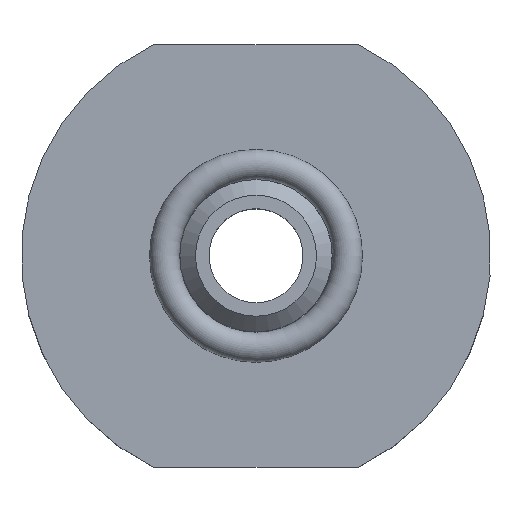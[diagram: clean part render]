
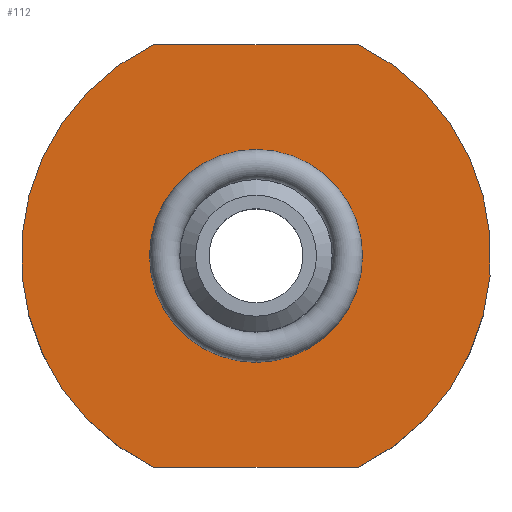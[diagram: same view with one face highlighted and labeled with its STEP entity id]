
A CAD part, top view. The second image highlights one B-rep face of the part: STEP entity #112.
In plain terms, the highlighted planar face has unit normal (0, 0, 1).
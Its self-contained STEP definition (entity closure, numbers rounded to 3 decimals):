
#112=ADVANCED_FACE('',(#225,#226),#227,.T.);
#225=FACE_BOUND('',#328,.T.);
#226=FACE_OUTER_BOUND('',#329,.T.);
#227=PLANE('',#330);
#328=EDGE_LOOP('',(#471));
#329=EDGE_LOOP('',(#472,#473,#474,#475));
#330=AXIS2_PLACEMENT_3D('',#476,#477,#478);
#471=ORIENTED_EDGE('',*,*,#499,.F.);
#472=ORIENTED_EDGE('',*,*,#505,.T.);
#473=ORIENTED_EDGE('',*,*,#533,.T.);
#474=ORIENTED_EDGE('',*,*,#536,.T.);
#475=ORIENTED_EDGE('',*,*,#529,.T.);
#476=CARTESIAN_POINT('',(0.0,0.0,14.0));
#477=DIRECTION('',(0.0,0.0,1.0));
#478=DIRECTION('',(1.0,0.0,0.0));
#499=EDGE_CURVE('',#552,#552,#553,.T.);
#505=EDGE_CURVE('',#563,#560,#564,.T.);
#529=EDGE_CURVE('',#597,#563,#601,.T.);
#533=EDGE_CURVE('',#560,#605,#607,.T.);
#536=EDGE_CURVE('',#605,#597,#610,.T.);
#552=VERTEX_POINT('',#631);
#553=CIRCLE('',#632,6.8);
#560=VERTEX_POINT('',#639);
#563=VERTEX_POINT('',#643);
#564=CIRCLE('',#644,15.0);
#597=VERTEX_POINT('',#678);
#601=LINE('',#684,#685);
#605=VERTEX_POINT('',#690);
#607=LINE('',#693,#694);
#610=CIRCLE('',#697,15.0);
#631=CARTESIAN_POINT('',(6.8,0.,14.0));
#632=AXIS2_PLACEMENT_3D('',#717,#718,#719);
#639=CARTESIAN_POINT('',(-6.538,-13.5,14.0));
#643=CARTESIAN_POINT('',(-6.538,13.5,14.0));
#644=AXIS2_PLACEMENT_3D('',#727,#728,#729);
#678=CARTESIAN_POINT('',(6.538,13.5,14.0));
#684=CARTESIAN_POINT('',(0.0,13.5,14.0));
#685=VECTOR('',#766,1.0);
#690=CARTESIAN_POINT('',(6.538,-13.5,14.0));
#693=CARTESIAN_POINT('',(0.0,-13.5,14.0));
#694=VECTOR('',#769,1.0);
#697=AXIS2_PLACEMENT_3D('',#773,#774,#775);
#717=CARTESIAN_POINT('',(0.0,0.,14.0));
#718=DIRECTION('',(0.0,0.0,1.0));
#719=DIRECTION('',(1.0,0.0,0.0));
#727=CARTESIAN_POINT('',(0.0,0.0,14.0));
#728=DIRECTION('',(0.0,0.0,1.0));
#729=DIRECTION('',(1.0,0.0,0.0));
#766=DIRECTION('',(-1.0,0.0,0.0));
#769=DIRECTION('',(1.0,0.0,0.0));
#773=CARTESIAN_POINT('',(0.0,0.0,14.0));
#774=DIRECTION('',(0.0,0.0,1.0));
#775=DIRECTION('',(1.0,0.0,0.0));
